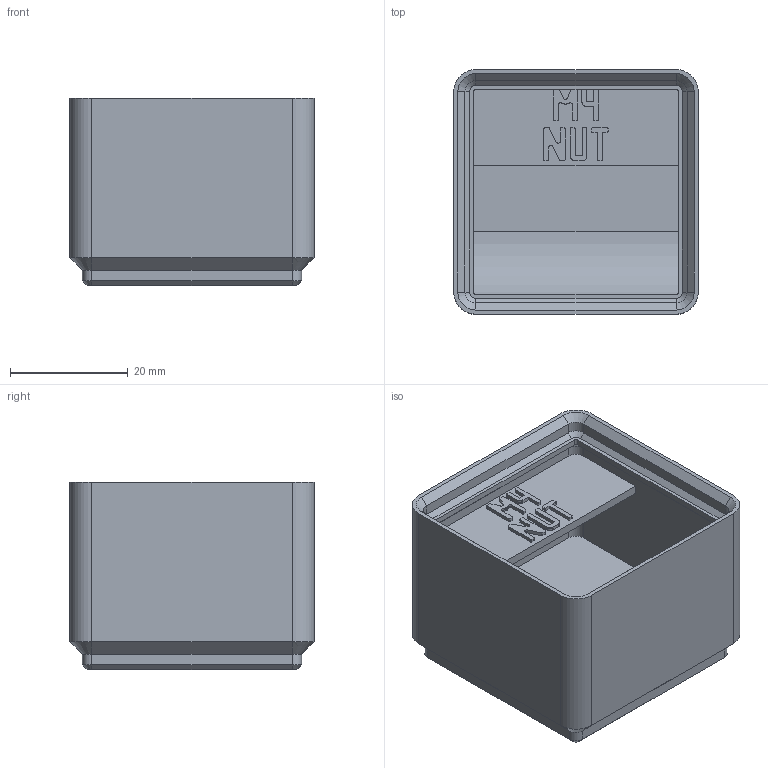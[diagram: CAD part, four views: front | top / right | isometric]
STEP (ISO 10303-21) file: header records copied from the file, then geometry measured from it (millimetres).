
FILE_DESCRIPTION(('Open CASCADE Model'),'2;1');
FILE_NAME('Open CASCADE Shape Model','2026-11-03T10:26:38',('Author'),( 'Open CASCADE'),'Open CASCADE STEP processor 8.0','build123d', 'Unknown');
FILE_SCHEMA(('AUTOMOTIVE_DESIGN { 1 0 10303 214 1 1 1 1 }'));
Length unit declared in the file: millimetre
Products named in the file (1): COMPOUND
Bounding box: 41.5 x 41.5 x 31.8 mm (x, y, z)
Volume: 24287 mm3; surface area: 12276.5 mm2
Topology: 1 solids, 1 shells, 510 faces, 1447 edges, 946 vertices
Faces by surface type: plane 467, cylinder 23, cone 20
Entity records: 34299 total; most frequent: CARTESIAN_POINT 7209, DIRECTION 4369, LINE 3219, VECTOR 3219, ORIENTED_EDGE 2894, PCURVE 2894, DEFINITIONAL_REPRESENTATION 2894, EDGE_CURVE 1447
